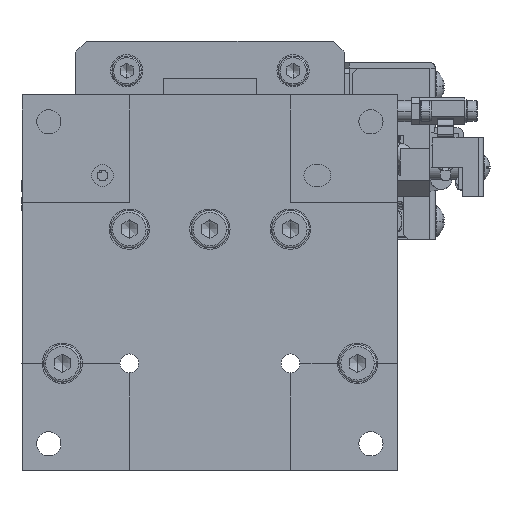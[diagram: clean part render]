
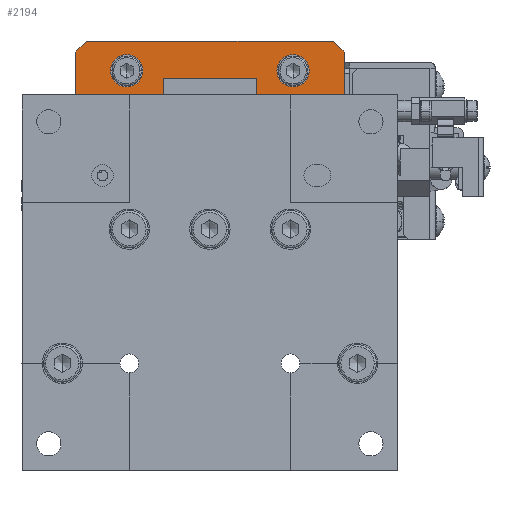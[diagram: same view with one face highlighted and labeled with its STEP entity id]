
A CAD part, front view. The second image highlights one B-rep face of the part: STEP entity #2194.
In plain terms, the highlighted planar face has unit normal (0, -1, 0).
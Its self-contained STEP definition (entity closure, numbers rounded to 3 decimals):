
#2194=ADVANCED_FACE('',(#24748,#24749,#24750),#24747,.T.);
#24747=PLANE('',#51285);
#24748=FACE_OUTER_BOUND('',#51286,.T.);
#24749=FACE_BOUND('',#51287,.T.);
#24750=FACE_BOUND('',#51288,.T.);
#51282=CARTESIAN_POINT('',(30.,84.5,16.15));
#51283=DIRECTION('',(0.,-1.,0.));
#51284=DIRECTION('',(0.,0.,1.));
#51285=AXIS2_PLACEMENT_3D('',#51282,#51283,#51284);
#51286=EDGE_LOOP('',(#72514,#72515,#72516,#72517,#72518,#72519,#72520,#72521,#72522,#72523));
#51287=EDGE_LOOP('',(#72524,#72525));
#51288=EDGE_LOOP('',(#72526,#72527));
#72514=ORIENTED_EDGE('',*,*,#80928,.F.);
#72515=ORIENTED_EDGE('',*,*,#82749,.T.);
#72516=ORIENTED_EDGE('',*,*,#82764,.F.);
#72517=ORIENTED_EDGE('',*,*,#82800,.F.);
#72518=ORIENTED_EDGE('',*,*,#82761,.F.);
#72519=ORIENTED_EDGE('',*,*,#82753,.T.);
#72520=ORIENTED_EDGE('',*,*,#80952,.T.);
#72521=ORIENTED_EDGE('',*,*,#80960,.T.);
#72522=ORIENTED_EDGE('',*,*,#82062,.T.);
#72523=ORIENTED_EDGE('',*,*,#80964,.T.);
#72524=ORIENTED_EDGE('',*,*,#84969,.T.);
#72525=ORIENTED_EDGE('',*,*,#84970,.T.);
#72526=ORIENTED_EDGE('',*,*,#84971,.T.);
#72527=ORIENTED_EDGE('',*,*,#84972,.T.);
#80928=EDGE_CURVE('',#99840,#99848,#99849,.T.);
#80952=EDGE_CURVE('',#100015,#100008,#100016,.T.);
#80960=EDGE_CURVE('',#100008,#100061,#100068,.T.);
#80964=EDGE_CURVE('',#100094,#99848,#100095,.T.);
#82062=EDGE_CURVE('',#100061,#100094,#107510,.T.);
#82749=EDGE_CURVE('',#99840,#112149,#112156,.T.);
#82753=EDGE_CURVE('',#112163,#100015,#112183,.T.);
#82761=EDGE_CURVE('',#112163,#112235,#112236,.T.);
#82764=EDGE_CURVE('',#112249,#112149,#112256,.T.);
#82800=EDGE_CURVE('',#112235,#112249,#112498,.T.);
#84969=EDGE_CURVE('',#126897,#126898,#126899,.T.);
#84970=EDGE_CURVE('',#126898,#126897,#126905,.T.);
#84971=EDGE_CURVE('',#126911,#126912,#126913,.T.);
#84972=EDGE_CURVE('',#126912,#126911,#126919,.T.);
#99840=VERTEX_POINT('',#150590);
#99848=VERTEX_POINT('',#150595);
#99849=LINE('',#150596,#150597);
#100008=VERTEX_POINT('',#150694);
#100015=VERTEX_POINT('',#150698);
#100016=LINE('',#150699,#150700);
#100061=VERTEX_POINT('',#150723);
#100068=LINE('',#150727,#150728);
#100094=VERTEX_POINT('',#150741);
#100095=LINE('',#150742,#150743);
#107510=LINE('',#155464,#155465);
#112149=VERTEX_POINT('',#158447);
#112156=LINE('',#158451,#158452);
#112163=VERTEX_POINT('',#158455);
#112183=LINE('',#158466,#158467);
#112235=VERTEX_POINT('',#158494);
#112236=LINE('',#158495,#158496);
#112249=VERTEX_POINT('',#158502);
#112256=LINE('',#158506,#158507);
#112498=LINE('',#158645,#158646);
#126897=VERTEX_POINT('',#167325);
#126898=VERTEX_POINT('',#167326);
#126899=CIRCLE('',#167330,3.);
#126905=CIRCLE('',#167334,3.);
#126911=VERTEX_POINT('',#167335);
#126912=VERTEX_POINT('',#167336);
#126913=CIRCLE('',#167340,3.);
#126919=CIRCLE('',#167344,3.);
#150590=CARTESIAN_POINT('',(-25.,84.5,17.5));
#150595=CARTESIAN_POINT('',(-25.,84.5,29.));
#150596=CARTESIAN_POINT('',(-25.,84.5,17.5));
#150597=VECTOR('',#150598,11.5);
#150598=DIRECTION('',(0.,0.,1.));
#150694=CARTESIAN_POINT('',(25.,84.5,29.));
#150698=CARTESIAN_POINT('',(25.,84.5,17.5));
#150699=CARTESIAN_POINT('',(25.,84.5,17.5));
#150700=VECTOR('',#150701,11.5);
#150701=DIRECTION('',(0.,0.,1.));
#150723=CARTESIAN_POINT('',(23.,84.5,31.));
#150727=CARTESIAN_POINT('',(25.,84.5,29.));
#150728=VECTOR('',#150729,2.828);
#150729=DIRECTION('',(-0.707,0.,0.707));
#150741=CARTESIAN_POINT('',(-23.,84.5,31.));
#150742=CARTESIAN_POINT('',(-23.,84.5,31.));
#150743=VECTOR('',#150744,2.828);
#150744=DIRECTION('',(-0.707,0.,-0.707));
#155464=CARTESIAN_POINT('',(23.,84.5,31.));
#155465=VECTOR('',#155466,46.);
#155466=DIRECTION('',(-1.,0.,0.));
#158447=CARTESIAN_POINT('',(-8.7,84.5,17.5));
#158451=CARTESIAN_POINT('',(-25.,84.5,17.5));
#158452=VECTOR('',#158453,16.3);
#158453=DIRECTION('',(1.,0.,0.));
#158455=CARTESIAN_POINT('',(8.7,84.5,17.5));
#158466=CARTESIAN_POINT('',(8.7,84.5,17.5));
#158467=VECTOR('',#158468,16.3);
#158468=DIRECTION('',(1.,0.,0.));
#158494=CARTESIAN_POINT('',(8.7,84.5,24.));
#158495=CARTESIAN_POINT('',(8.7,84.5,17.5));
#158496=VECTOR('',#158497,6.5);
#158497=DIRECTION('',(0.,0.,1.));
#158502=CARTESIAN_POINT('',(-8.7,84.5,24.));
#158506=CARTESIAN_POINT('',(-8.7,84.5,24.));
#158507=VECTOR('',#158508,6.5);
#158508=DIRECTION('',(0.,0.,-1.));
#158645=CARTESIAN_POINT('',(8.7,84.5,24.));
#158646=VECTOR('',#158647,17.4);
#158647=DIRECTION('',(-1.,0.,0.));
#167325=CARTESIAN_POINT('',(-15.5,84.5,22.5));
#167326=CARTESIAN_POINT('',(-15.5,84.5,28.5));
#167327=CARTESIAN_POINT('',(-15.5,84.5,25.5));
#167328=DIRECTION('',(0.,1.,0.));
#167329=DIRECTION('',(0.,0.,-1.));
#167330=AXIS2_PLACEMENT_3D('',#167327,#167328,#167329);
#167331=CARTESIAN_POINT('',(-15.5,84.5,25.5));
#167332=DIRECTION('',(0.,1.,0.));
#167333=DIRECTION('',(0.,0.,-1.));
#167334=AXIS2_PLACEMENT_3D('',#167331,#167332,#167333);
#167335=CARTESIAN_POINT('',(15.5,84.5,22.5));
#167336=CARTESIAN_POINT('',(15.5,84.5,28.5));
#167337=CARTESIAN_POINT('',(15.5,84.5,25.5));
#167338=DIRECTION('',(0.,1.,0.));
#167339=DIRECTION('',(0.,0.,-1.));
#167340=AXIS2_PLACEMENT_3D('',#167337,#167338,#167339);
#167341=CARTESIAN_POINT('',(15.5,84.5,25.5));
#167342=DIRECTION('',(0.,1.,0.));
#167343=DIRECTION('',(0.,0.,-1.));
#167344=AXIS2_PLACEMENT_3D('',#167341,#167342,#167343);
